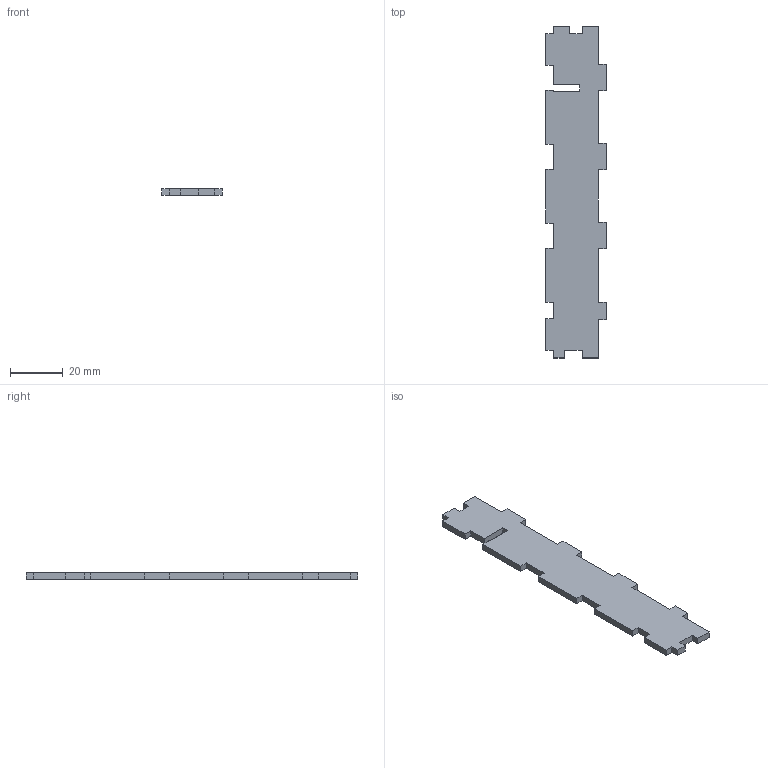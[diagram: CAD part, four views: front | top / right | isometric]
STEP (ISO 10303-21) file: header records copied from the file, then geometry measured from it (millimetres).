
FILE_DESCRIPTION (( 'STEP AP214' ), '1' );
FILE_NAME ('side_extension.STEP', '2025-06-15T00:39:59', ( '' ), ( '' ), 'SwSTEP 2.0', 'SolidWorks 2024', '' );
FILE_SCHEMA (( 'AUTOMOTIVE_DESIGN' ));
Length unit declared in the file: millimetre
Products named in the file (1): side_extension
Bounding box: 23 x 126 x 2.5 mm (x, y, z)
Volume: 6121.2 mm3; surface area: 5828.7 mm2
Topology: 1 solids, 1 shells, 54 faces, 156 edges, 104 vertices
Faces by surface type: plane 54
Entity records: 1763 total; most frequent: CARTESIAN_POINT 315, ORIENTED_EDGE 312, DIRECTION 266, LINE 156, EDGE_CURVE 156, VECTOR 156, VERTEX_POINT 104, AXIS2_PLACEMENT_3D 55
